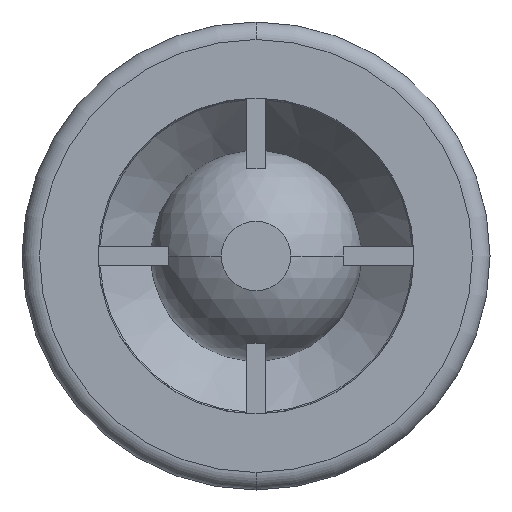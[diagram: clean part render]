
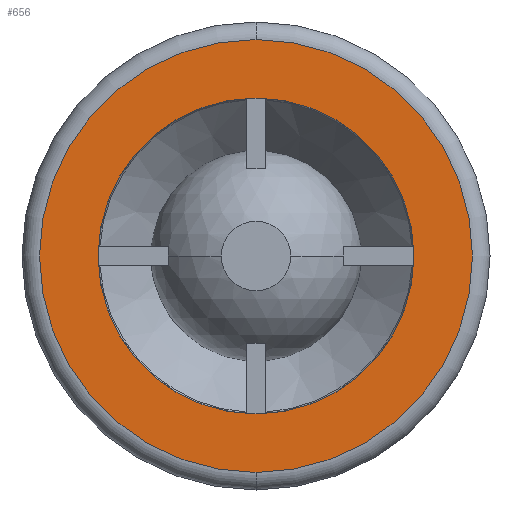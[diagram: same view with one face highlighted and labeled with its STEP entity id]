
A CAD part, front view. The second image highlights one B-rep face of the part: STEP entity #656.
In plain terms, the highlighted planar face has unit normal (0, -1, 0).
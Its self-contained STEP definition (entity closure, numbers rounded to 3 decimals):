
#426 = VERTEX_POINT ( 'NONE', #2620 ) ;
#428 = EDGE_CURVE ( 'NONE', #426, #429, #2619, .T. ) ;
#429 = VERTEX_POINT ( 'NONE', #2674 ) ;
#459 = EDGE_CURVE ( 'NONE', #429, #426, #2733, .T. ) ;
#605 = EDGE_LOOP ( 'NONE', ( #657, #659 ) ) ;
#656 = ADVANCED_FACE ( 'NONE', ( #3055, #3051 ), #3050, .F. ) ;
#657 = ORIENTED_EDGE ( 'NONE', *, *, #658, .T. ) ;
#658 = EDGE_CURVE ( 'NONE', #6788, #6791, #3048, .T. ) ;
#659 = ORIENTED_EDGE ( 'NONE', *, *, #6789, .T. ) ;
#660 = EDGE_LOOP ( 'NONE', ( #661, #662 ) ) ;
#661 = ORIENTED_EDGE ( 'NONE', *, *, #459, .F. ) ;
#662 = ORIENTED_EDGE ( 'NONE', *, *, #428, .F. ) ;
#2615 = DIRECTION ( 'NONE',  ( 0., 0., -1. ) ) ;
#2616 = DIRECTION ( 'NONE',  ( 0., -1., 0. ) ) ;
#2617 = CARTESIAN_POINT ( 'NONE',  ( 0., 0., 0. ) ) ;
#2618 = AXIS2_PLACEMENT_3D ( 'NONE', #2617, #2616, #2615 ) ;
#2619 = CIRCLE ( 'NONE', #2618, 13.5 ) ;
#2620 = CARTESIAN_POINT ( 'NONE',  ( 0., 0., 13.5 ) ) ;
#2674 = CARTESIAN_POINT ( 'NONE',  ( 0., 0., -13.5 ) ) ;
#2678 = CARTESIAN_POINT ( 'NONE',  ( 0., 0., 0. ) ) ;
#2730 = DIRECTION ( 'NONE',  ( 0., 0., -1. ) ) ;
#2731 = DIRECTION ( 'NONE',  ( 0., -1., 0. ) ) ;
#2732 = AXIS2_PLACEMENT_3D ( 'NONE', #2678, #2731, #2730 ) ;
#2733 = CIRCLE ( 'NONE', #2732, 13.5 ) ;
#3046 = DIRECTION ( 'NONE',  ( 0., 1., 0. ) ) ;
#3047 = CARTESIAN_POINT ( 'NONE',  ( -13.5, 0., 0. ) ) ;
#3048 = CIRCLE ( 'NONE', #3110, 18.5 ) ;
#3049 = AXIS2_PLACEMENT_3D ( 'NONE', #3047, #3046, #3111 ) ;
#3050 = PLANE ( 'NONE',  #3049 ) ;
#3051 = FACE_BOUND ( 'NONE', #660, .T. ) ;
#3055 = FACE_OUTER_BOUND ( 'NONE', #605, .T. ) ;
#3107 = DIRECTION ( 'NONE',  ( 0., 0., 1. ) ) ;
#3108 = DIRECTION ( 'NONE',  ( 0., -1., 0. ) ) ;
#3109 = CARTESIAN_POINT ( 'NONE',  ( 0., 0., 0. ) ) ;
#3110 = AXIS2_PLACEMENT_3D ( 'NONE', #3109, #3108, #3107 ) ;
#3111 = DIRECTION ( 'NONE',  ( 0., 0., 1. ) ) ;
#5476 = CARTESIAN_POINT ( 'NONE',  ( 0., 0., -18.5 ) ) ;
#5480 = DIRECTION ( 'NONE',  ( 0., 0., 1. ) ) ;
#5481 = DIRECTION ( 'NONE',  ( 0., -1., 0. ) ) ;
#5482 = CARTESIAN_POINT ( 'NONE',  ( 0., 0., 0. ) ) ;
#5483 = AXIS2_PLACEMENT_3D ( 'NONE', #5482, #5481, #5480 ) ;
#5484 = CIRCLE ( 'NONE', #5483, 18.5 ) ;
#5485 = CARTESIAN_POINT ( 'NONE',  ( 0., 0., 18.5 ) ) ;
#6788 = VERTEX_POINT ( 'NONE', #5485 ) ;
#6789 = EDGE_CURVE ( 'NONE', #6791, #6788, #5484, .T. ) ;
#6791 = VERTEX_POINT ( 'NONE', #5476 ) ;
